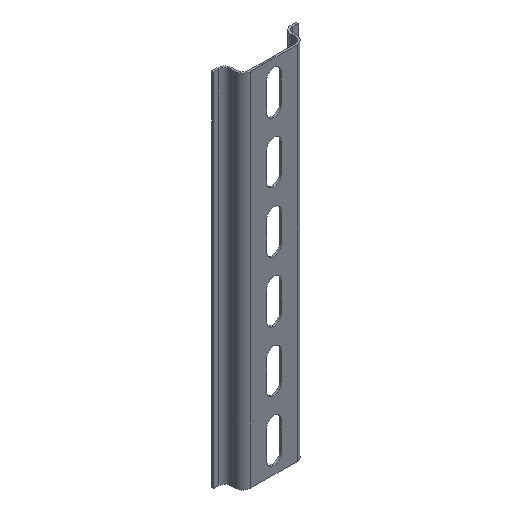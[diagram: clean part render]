
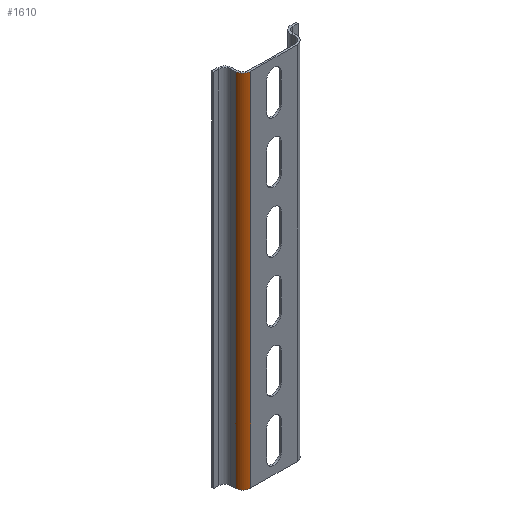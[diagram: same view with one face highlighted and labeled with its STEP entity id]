
A CAD part, isometric view. The second image highlights one B-rep face of the part: STEP entity #1610.
In plain terms, the highlighted cylindrical face has radius 3.3 mm (diameter 6.6 mm), a partial arc.
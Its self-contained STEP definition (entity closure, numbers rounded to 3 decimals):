
#149 = VERTEX_POINT ( 'NONE', #554 ) ;
#174 = ORIENTED_EDGE ( 'NONE', *, *, #979, .F. ) ;
#178 = DIRECTION ( 'NONE',  ( 0., 0., -1. ) ) ;
#199 = CARTESIAN_POINT ( 'NONE',  ( -9.6, 2.5, 150. ) ) ;
#224 = VERTEX_POINT ( 'NONE', #1185 ) ;
#254 = FACE_OUTER_BOUND ( 'NONE', #1647, .T. ) ;
#327 = ORIENTED_EDGE ( 'NONE', *, *, #877, .T. ) ;
#332 = CARTESIAN_POINT ( 'NONE',  ( -12.9, 2.5, 150. ) ) ;
#445 = ORIENTED_EDGE ( 'NONE', *, *, #898, .F. ) ;
#554 = CARTESIAN_POINT ( 'NONE',  ( -12.9, 2.5, 0. ) ) ;
#636 = DIRECTION ( 'NONE',  ( 0., 0., -1. ) ) ;
#856 = VERTEX_POINT ( 'NONE', #1779 ) ;
#867 = CYLINDRICAL_SURFACE ( 'NONE', #1965, 3.3 ) ;
#877 = EDGE_CURVE ( 'NONE', #856, #149, #1385, .T. ) ;
#898 = EDGE_CURVE ( 'NONE', #224, #149, #1657, .T. ) ;
#966 = VECTOR ( 'NONE', #1438, 1000. ) ;
#978 = DIRECTION ( 'NONE',  ( 1., 0., 0. ) ) ;
#979 = EDGE_CURVE ( 'NONE', #1097, #224, #1952, .T. ) ;
#981 = DIRECTION ( 'NONE',  ( 0., 0., -1. ) ) ;
#1072 = VECTOR ( 'NONE', #636, 1000. ) ;
#1097 = VERTEX_POINT ( 'NONE', #1752 ) ;
#1185 = CARTESIAN_POINT ( 'NONE',  ( -9.6, -0.8, 0. ) ) ;
#1272 = DIRECTION ( 'NONE',  ( 1., 0., 0. ) ) ;
#1385 = LINE ( 'NONE', #332, #966 ) ;
#1404 = CIRCLE ( 'NONE', #1720, 3.3 ) ;
#1414 = CARTESIAN_POINT ( 'NONE',  ( -9.6, -0.8, 150. ) ) ;
#1438 = DIRECTION ( 'NONE',  ( 0., 0., -1. ) ) ;
#1448 = DIRECTION ( 'NONE',  ( -1., 0., 0. ) ) ;
#1452 = ORIENTED_EDGE ( 'NONE', *, *, #1615, .T. ) ;
#1610 = ADVANCED_FACE ( 'NONE', ( #254 ), #867, .T. ) ;
#1615 = EDGE_CURVE ( 'NONE', #1097, #856, #1404, .T. ) ;
#1647 = EDGE_LOOP ( 'NONE', ( #445, #174, #1452, #327 ) ) ;
#1657 = CIRCLE ( 'NONE', #1954, 3.3 ) ;
#1720 = AXIS2_PLACEMENT_3D ( 'NONE', #1917, #981, #1272 ) ;
#1752 = CARTESIAN_POINT ( 'NONE',  ( -9.6, -0.8, 150. ) ) ;
#1768 = CARTESIAN_POINT ( 'NONE',  ( -9.6, 2.5, 0. ) ) ;
#1779 = CARTESIAN_POINT ( 'NONE',  ( -12.9, 2.5, 150. ) ) ;
#1915 = DIRECTION ( 'NONE',  ( 0., 0., -1. ) ) ;
#1917 = CARTESIAN_POINT ( 'NONE',  ( -9.6, 2.5, 150. ) ) ;
#1952 = LINE ( 'NONE', #1414, #1072 ) ;
#1954 = AXIS2_PLACEMENT_3D ( 'NONE', #1768, #1915, #978 ) ;
#1965 = AXIS2_PLACEMENT_3D ( 'NONE', #199, #178, #1448 ) ;
